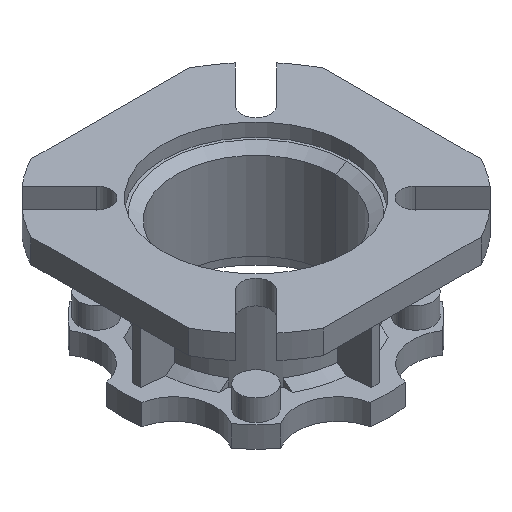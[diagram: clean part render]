
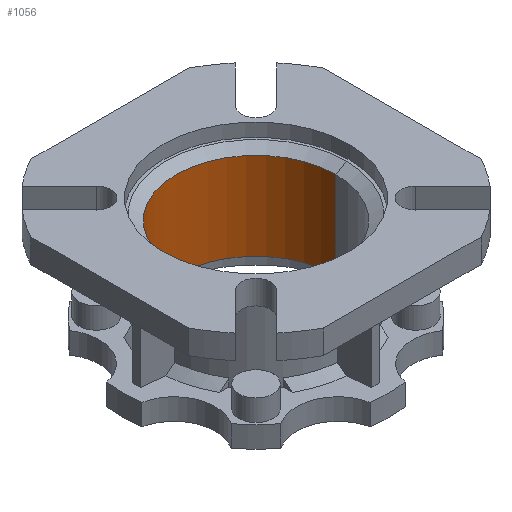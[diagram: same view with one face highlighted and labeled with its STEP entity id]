
A CAD part, isometric view. The second image highlights one B-rep face of the part: STEP entity #1056.
In plain terms, the highlighted cylindrical face has radius 30 mm (diameter 60 mm), a partial arc.
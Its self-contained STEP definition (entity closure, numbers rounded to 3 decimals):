
#1056=ADVANCED_FACE('',(#1182),#2967,.F.);
#1182=FACE_OUTER_BOUND('',#1308,.T.);
#1308=EDGE_LOOP('',(#1915,#1916,#1917,#1918));
#1915=ORIENTED_EDGE('',*,*,#2238,.T.);
#1916=ORIENTED_EDGE('',*,*,#2125,.F.);
#1917=ORIENTED_EDGE('',*,*,#2127,.F.);
#1918=ORIENTED_EDGE('',*,*,#2128,.F.);
#2125=EDGE_CURVE('',#2885,#2895,#2333,.T.);
#2127=EDGE_CURVE('',#2886,#2885,#2619,.T.);
#2128=EDGE_CURVE('',#2883,#2886,#2335,.T.);
#2238=EDGE_CURVE('',#2883,#2895,#2692,.T.);
#2333=TRIMMED_CURVE($,#2461,(#4893),(#4894),.T.,.CARTESIAN.);
#2335=TRIMMED_CURVE($,#2463,(#4901),(#4902),.T.,.CARTESIAN.);
#2461=CIRCLE('',#3372,30.);
#2463=CIRCLE('',#3374,30.);
#2619=B_SPLINE_CURVE_WITH_KNOTS('',1,(#4898,#4899),.UNSPECIFIED.,.F.,.F.,
(2,2),(3.348,36.228),.UNSPECIFIED.);
#2692=B_SPLINE_CURVE_WITH_KNOTS('',1,(#5190,#5191),.UNSPECIFIED.,.F.,.F.,
(2,2),(3.348,36.228),.UNSPECIFIED.);
#2883=VERTEX_POINT('',#4396);
#2885=VERTEX_POINT('',#4398);
#2886=VERTEX_POINT('',#4399);
#2895=VERTEX_POINT('',#4408);
#2967=CYLINDRICAL_SURFACE('',#3290,30.);
#3290=AXIS2_PLACEMENT_3D('',#4196,#3520,$);
#3372=AXIS2_PLACEMENT_3D($,#4892,#3678,#3679);
#3374=AXIS2_PLACEMENT_3D($,#4900,#3682,#3683);
#3520=DIRECTION('',(1.,0.,0.));
#3678=DIRECTION('',(-1.,0.,0.));
#3679=DIRECTION('',(0.,0.,-1.));
#3682=DIRECTION('',(1.,0.,0.));
#3683=DIRECTION('',(0.,0.,1.));
#4196=CARTESIAN_POINT('',(22.75,0.,0.));
#4396=CARTESIAN_POINT('',(6.31,0.,30.));
#4398=CARTESIAN_POINT('',(39.19,0.,-30.));
#4399=CARTESIAN_POINT('',(6.31,0.,-30.));
#4408=CARTESIAN_POINT('',(39.19,0.,30.));
#4892=CARTESIAN_POINT('',(39.19,0.,0.));
#4893=CARTESIAN_POINT('',(39.19,0.,-30.));
#4894=CARTESIAN_POINT('',(39.19,0.,30.));
#4898=CARTESIAN_POINT('',(6.31,0.,-30.));
#4899=CARTESIAN_POINT('',(39.19,0.,-30.));
#4900=CARTESIAN_POINT('',(6.31,0.,0.));
#4901=CARTESIAN_POINT('',(6.31,0.,30.));
#4902=CARTESIAN_POINT('',(6.31,0.,-30.));
#5190=CARTESIAN_POINT('',(6.31,0.,30.));
#5191=CARTESIAN_POINT('',(39.19,0.,30.));
